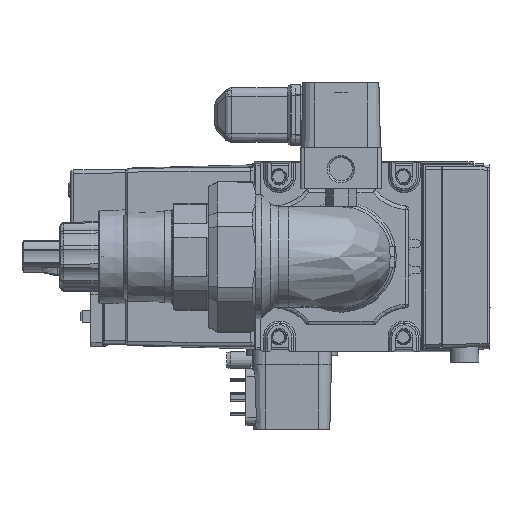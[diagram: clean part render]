
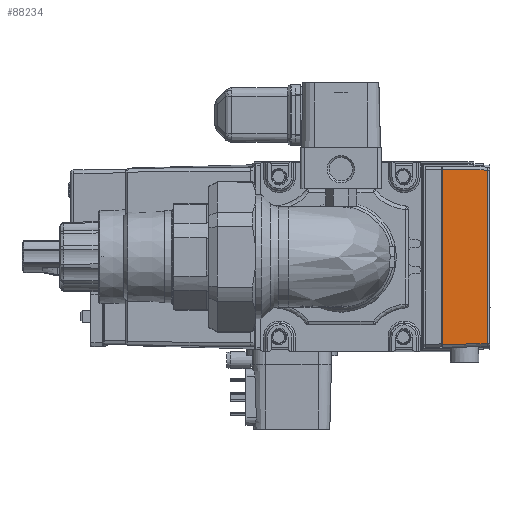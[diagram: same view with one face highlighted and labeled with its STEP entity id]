
A CAD part, left-side view. The second image highlights one B-rep face of the part: STEP entity #88234.
In plain terms, the highlighted planar face has unit normal (1, 0.018, 0).
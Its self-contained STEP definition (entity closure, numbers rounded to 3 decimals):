
#735 = CARTESIAN_POINT ( 'NONE',  ( -58.5, -11., 51.04 ) ) ;
#9321 = PLANE ( 'NONE',  #126235 ) ;
#17717 = CARTESIAN_POINT ( 'NONE',  ( -58.5, -11., 46.4 ) ) ;
#19564 = CARTESIAN_POINT ( 'NONE',  ( -58.091, -34.428, -45.991 ) ) ;
#23671 = DIRECTION ( 'NONE',  ( 0.017, -1., 0.017 ) ) ;
#24235 = LINE ( 'NONE', #111542, #91034 ) ;
#29271 = ORIENTED_EDGE ( 'NONE', *, *, #120391, .T. ) ;
#41636 = EDGE_CURVE ( 'NONE', #71436, #152976, #24235, .T. ) ;
#43851 = ORIENTED_EDGE ( 'NONE', *, *, #157135, .F. ) ;
#48999 = ORIENTED_EDGE ( 'NONE', *, *, #41636, .F. ) ;
#51859 = DIRECTION ( 'NONE',  ( 0., 0., -1. ) ) ;
#62844 = DIRECTION ( 'NONE',  ( -0.017, 1., 0.017 ) ) ;
#70650 = CARTESIAN_POINT ( 'NONE',  ( -58.52, -9.829, 51.04 ) ) ;
#70902 = CARTESIAN_POINT ( 'NONE',  ( -58.091, -34.428, 45.991 ) ) ;
#71436 = VERTEX_POINT ( 'NONE', #70902 ) ;
#71490 = DIRECTION ( 'NONE',  ( -1., -0.017, 0. ) ) ;
#72296 = FACE_OUTER_BOUND ( 'NONE', #92749, .T. ) ;
#74618 = VECTOR ( 'NONE', #51859, 1000. ) ;
#74948 = LINE ( 'NONE', #152026, #94099 ) ;
#86716 = EDGE_CURVE ( 'NONE', #152976, #92914, #132338, .T. ) ;
#88234 = ADVANCED_FACE ( 'NONE', ( #72296 ), #9321, .F. ) ;
#88326 = CARTESIAN_POINT ( 'NONE',  ( -58.091, -34.428, -45.991 ) ) ;
#91034 = VECTOR ( 'NONE', #62844, 1000. ) ;
#92749 = EDGE_LOOP ( 'NONE', ( #96168, #48999, #29271, #43851 ) ) ;
#92914 = VERTEX_POINT ( 'NONE', #164465 ) ;
#94099 = VECTOR ( 'NONE', #23671, 1000. ) ;
#96168 = ORIENTED_EDGE ( 'NONE', *, *, #86716, .F. ) ;
#96837 = DIRECTION ( 'NONE',  ( 0., 0., -1. ) ) ;
#109338 = VECTOR ( 'NONE', #96837, 1000. ) ;
#111542 = CARTESIAN_POINT ( 'NONE',  ( -58.091, -34.428, 45.991 ) ) ;
#120391 = EDGE_CURVE ( 'NONE', #71436, #157761, #132853, .T. ) ;
#126235 = AXIS2_PLACEMENT_3D ( 'NONE', #70650, #71490, #136808 ) ;
#132338 = LINE ( 'NONE', #735, #74618 ) ;
#132853 = LINE ( 'NONE', #19564, #109338 ) ;
#136808 = DIRECTION ( 'NONE',  ( 0.017, -1., 0. ) ) ;
#152026 = CARTESIAN_POINT ( 'NONE',  ( -58.5, -11., -46.4 ) ) ;
#152976 = VERTEX_POINT ( 'NONE', #17717 ) ;
#157135 = EDGE_CURVE ( 'NONE', #92914, #157761, #74948, .T. ) ;
#157761 = VERTEX_POINT ( 'NONE', #88326 ) ;
#164465 = CARTESIAN_POINT ( 'NONE',  ( -58.5, -11., -46.4 ) ) ;
